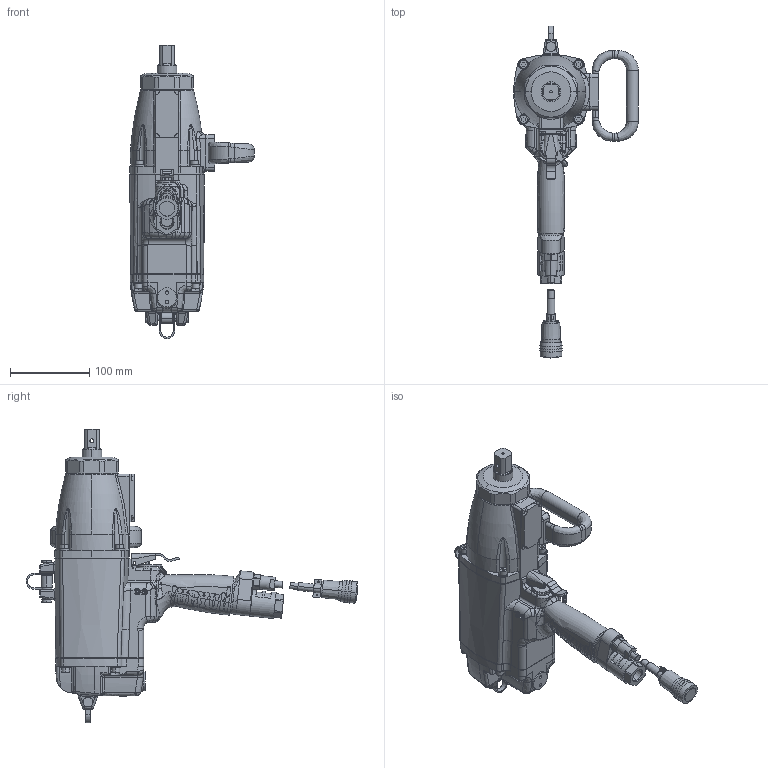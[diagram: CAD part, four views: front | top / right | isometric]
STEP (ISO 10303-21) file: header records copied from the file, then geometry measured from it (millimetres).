
FILE_DESCRIPTION (( 'STEP AP203' ), '1' );
FILE_NAME ('UXR-2000MC.STEP', '2009-02-03T04:46:19', ( ' ' ), ( ' ' ), 'SwSTEP 2.0', 'SolidWorks 2003240', '' );
FILE_SCHEMA (( 'CONFIG_CONTROL_DESIGN' ));
Products named in the file (11): 1631076_UXR-2000MC_蹬怮椔; 1301042_UXR-2000MC_蹬怮椔; UXR-2000MC; 1484546_UXR-2000MC_蹬怮椔; 1484396_UXR-2000MC_蹬怮椔; 1480256_UXR-2000MC_蹬怮椔; 1487925_UXR-2000MC_蹬怮椔; 1632123_UXR-2000MC_蹬怮椔; 9102570_UXR-2000MC_蹬怮椔; 1638426_UXR-2000MC; 1480128_UXR-2000MC_蹬怮椔
Assembly tree (11 placements, depth 2):
  UXR-2000MC
    1301042_UXR-2000MC_蹬怮椔
    1480256_UXR-2000MC_蹬怮椔
    1638426_UXR-2000MC
    1484546_UXR-2000MC_蹬怮椔
    1484396_UXR-2000MC_蹬怮椔
    9102570_UXR-2000MC_蹬怮椔
    1487925_UXR-2000MC_蹬怮椔  x2
    1480128_UXR-2000MC_蹬怮椔
    1631076_UXR-2000MC_蹬怮椔
    1632123_UXR-2000MC_蹬怮椔
Bounding box: 157 x 417.94 x 369.3 mm (x, y, z)
Volume: 2527090.2 mm3; surface area: 244600.8 mm2
Topology: 11 solids, 11 shells, 1972 faces, 5285 edges, 3400 vertices
Faces by surface type: plane 877, cylinder 557, bspline 448, torus 51, cone 23, sphere 16
Entity records: 281552 total; most frequent: CARTESIAN_POINT 237153, ORIENTED_EDGE 10312, DIRECTION 6956, EDGE_CURVE 5156, VERTEX_POINT 3338, AXIS2_PLACEMENT_3D 2515, B_SPLINE_CURVE_WITH_KNOTS 2107, EDGE_LOOP 2054
